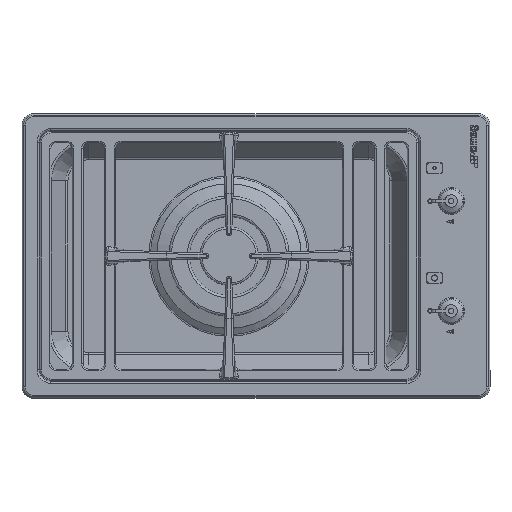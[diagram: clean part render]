
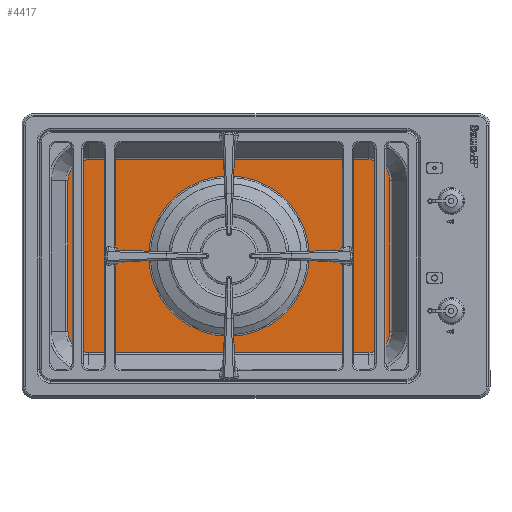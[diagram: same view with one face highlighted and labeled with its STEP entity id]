
A CAD part, top view. The second image highlights one B-rep face of the part: STEP entity #4417.
In plain terms, the highlighted planar face has unit normal (0, 0, 1).
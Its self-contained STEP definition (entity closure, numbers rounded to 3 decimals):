
#1183=LINE('',#24091,#2043);
#1184=LINE('',#24099,#2044);
#1185=LINE('',#24107,#2045);
#1186=LINE('',#24113,#2046);
#2043=VECTOR('',#19679,1.);
#2044=VECTOR('',#19690,1.);
#2045=VECTOR('',#19701,1.);
#2046=VECTOR('',#19710,1.);
#3910=FACE_BOUND('',#6581,.T.);
#3911=FACE_BOUND('',#6582,.T.);
#4417=ADVANCED_FACE('',(#3910,#3911),#5183,.T.);
#5183=PLANE('',#16746);
#6581=EDGE_LOOP('',(#8844));
#6582=EDGE_LOOP('',(#8845,#8846,#8847,#8848,#8849,#8850,#8851,#8852));
#8844=ORIENTED_EDGE('',*,*,#13616,.F.);
#8845=ORIENTED_EDGE('',*,*,#13763,.F.);
#8846=ORIENTED_EDGE('',*,*,#13777,.F.);
#8847=ORIENTED_EDGE('',*,*,#13776,.F.);
#8848=ORIENTED_EDGE('',*,*,#13774,.F.);
#8849=ORIENTED_EDGE('',*,*,#13772,.F.);
#8850=ORIENTED_EDGE('',*,*,#13770,.F.);
#8851=ORIENTED_EDGE('',*,*,#13768,.F.);
#8852=ORIENTED_EDGE('',*,*,#13766,.F.);
#12071=VERTEX_POINT('',#23786);
#12161=VERTEX_POINT('',#24084);
#12162=VERTEX_POINT('',#24086);
#12163=VERTEX_POINT('',#24090);
#12164=VERTEX_POINT('',#24094);
#12165=VERTEX_POINT('',#24098);
#12166=VERTEX_POINT('',#24102);
#12167=VERTEX_POINT('',#24106);
#12168=VERTEX_POINT('',#24110);
#13616=EDGE_CURVE('',#12071,#12071,#15439,.T.);
#13763=EDGE_CURVE('',#12161,#12162,#15518,.T.);
#13766=EDGE_CURVE('',#12162,#12163,#1183,.T.);
#13768=EDGE_CURVE('',#12163,#12164,#15522,.T.);
#13770=EDGE_CURVE('',#12164,#12165,#1184,.T.);
#13772=EDGE_CURVE('',#12165,#12166,#15525,.T.);
#13774=EDGE_CURVE('',#12166,#12167,#1185,.T.);
#13776=EDGE_CURVE('',#12167,#12168,#15528,.T.);
#13777=EDGE_CURVE('',#12168,#12161,#1186,.T.);
#15439=CIRCLE('',#16586,87.515);
#15518=CIRCLE('',#16727,22.891);
#15522=CIRCLE('',#16733,22.891);
#15525=CIRCLE('',#16738,22.891);
#15528=CIRCLE('',#16743,22.891);
#16586=AXIS2_PLACEMENT_3D('',#23785,#19321,#19322);
#16727=AXIS2_PLACEMENT_3D('',#24085,#19671,#19672);
#16733=AXIS2_PLACEMENT_3D('',#24095,#19684,#19685);
#16738=AXIS2_PLACEMENT_3D('',#24103,#19695,#19696);
#16743=AXIS2_PLACEMENT_3D('',#24111,#19706,#19707);
#16746=AXIS2_PLACEMENT_3D('',#24115,#19713,#19714);
#19321=DIRECTION('',(0.,0.,1.));
#19322=DIRECTION('',(1.,0.,0.));
#19671=DIRECTION('',(0.,0.,-1.));
#19672=DIRECTION('',(-0.707,-0.707,0.));
#19679=DIRECTION('',(0.,1.,0.));
#19684=DIRECTION('',(0.,0.,-1.));
#19685=DIRECTION('',(-0.707,0.707,0.));
#19690=DIRECTION('',(1.,0.,0.));
#19695=DIRECTION('',(0.,0.,-1.));
#19696=DIRECTION('',(0.707,0.707,0.));
#19701=DIRECTION('',(0.,-1.,0.));
#19706=DIRECTION('',(0.,0.,-1.));
#19707=DIRECTION('',(0.707,-0.707,0.));
#19710=DIRECTION('',(-1.,0.,0.));
#19713=DIRECTION('',(0.,0.,1.));
#19714=DIRECTION('',(0.,1.,0.));
#23785=CARTESIAN_POINT('',(-262.594,338.192,-6.));
#23786=CARTESIAN_POINT('',(-262.594,425.707,-6.));
#24084=CARTESIAN_POINT('',(-415.394,233.002,-6.));
#24085=CARTESIAN_POINT('',(-415.394,255.892,-6.));
#24086=CARTESIAN_POINT('',(-438.285,255.892,-6.));
#24090=CARTESIAN_POINT('',(-438.285,420.492,-6.));
#24091=CARTESIAN_POINT('',(-438.285,379.317,-6.));
#24094=CARTESIAN_POINT('',(-415.394,443.383,-6.));
#24095=CARTESIAN_POINT('',(-415.394,420.492,-6.));
#24098=CARTESIAN_POINT('',(-109.794,443.383,-6.));
#24099=CARTESIAN_POINT('',(-200.469,443.383,-6.));
#24102=CARTESIAN_POINT('',(-86.903,420.492,-6.));
#24103=CARTESIAN_POINT('',(-109.794,420.492,-6.));
#24106=CARTESIAN_POINT('',(-86.903,255.892,-6.));
#24107=CARTESIAN_POINT('',(-86.903,297.067,-6.));
#24110=CARTESIAN_POINT('',(-109.794,233.002,-6.));
#24111=CARTESIAN_POINT('',(-109.794,255.892,-6.));
#24113=CARTESIAN_POINT('',(-381.719,233.002,-6.));
#24115=CARTESIAN_POINT('',(-291.094,338.192,-6.));
